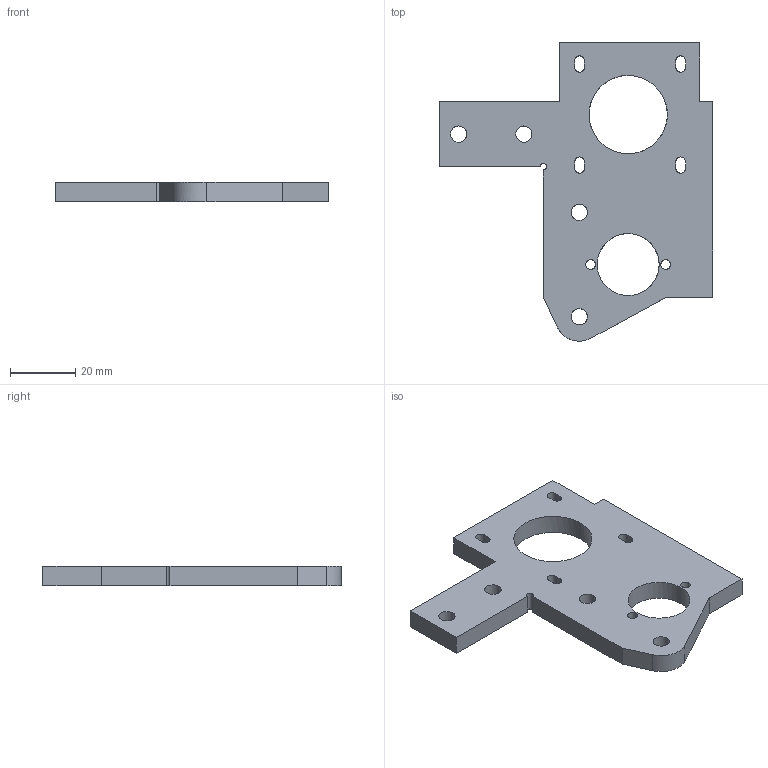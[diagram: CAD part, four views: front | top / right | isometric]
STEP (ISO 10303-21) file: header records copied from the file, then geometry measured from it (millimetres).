
FILE_DESCRIPTION(/* description */ (''),/* implementation_level */ '2;1');
FILE_NAME(/* name */ '8.x-drive#8.3#la-mpk-12',/* time_stamp */ '2014-12-01T20:18:10+01:00',/* author */ (''),/* organization */ (''),/* preprocessor_version */ 'ST-DEVELOPER v14',/* originating_system */ '',/* authorisation */ '');
FILE_SCHEMA (('AUTOMOTIVE_DESIGN'));
Length unit declared in the file: millimetre
Products named in the file (1): Document
Bounding box: 84 x 91.5 x 6 mm (x, y, z)
Volume: 23674.4 mm3; surface area: 11544.3 mm2
Topology: 1 solids, 1 shells, 48 faces, 138 edges, 92 vertices
Faces by surface type: bspline 26, plane 22
Entity records: 3443 total; most frequent: CARTESIAN_POINT 1668, B_SPLINE_CURVE_WITH_KNOTS 287, ORIENTED_EDGE 276, PCURVE 276, DEFINITIONAL_REPRESENTATION 276, SURFACE_CURVE 138, EDGE_CURVE 138, VERTEX_POINT 92
